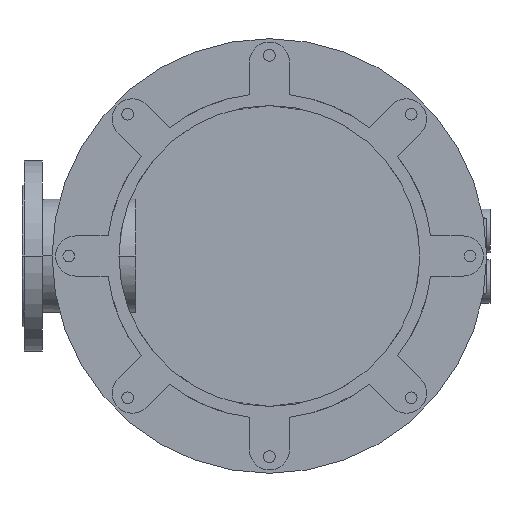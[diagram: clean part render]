
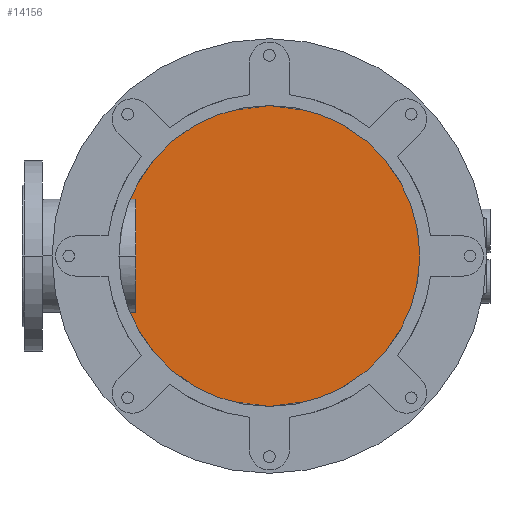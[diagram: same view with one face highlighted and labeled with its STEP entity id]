
A CAD part, front view. The second image highlights one B-rep face of the part: STEP entity #14156.
In plain terms, the highlighted planar face has unit normal (0, -1, 0).
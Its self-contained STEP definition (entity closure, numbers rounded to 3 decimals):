
#2800=CARTESIAN_POINT('',(0.,836.,0.));
#2801=DIRECTION('',(0.,-1.,0.));
#2802=DIRECTION('',(0.,0.,1.));
#2803=AXIS2_PLACEMENT_3D('',#2800,#2801,#2802);
#2969=CARTESIAN_POINT('',(0.,836.,0.));
#2970=DIRECTION('',(0.,-1.,0.));
#2971=DIRECTION('',(0.,0.,-1.));
#2972=AXIS2_PLACEMENT_3D('',#2969,#2970,#2971);
#9179=CARTESIAN_POINT('',(0.,836.,240.));
#9180=CARTESIAN_POINT('',(0.,836.,-240.));
#9181=VERTEX_POINT('',#9179);
#9182=VERTEX_POINT('',#9180);
#14146=CARTESIAN_POINT('',(0.,836.,0.));
#14147=DIRECTION('',(0.,1.,0.));
#14148=DIRECTION('',(0.,0.,-1.));
#14149=AXIS2_PLACEMENT_3D('',#14146,#14147,#14148);
#14150=PLANE('',#14149);
#14151=ORIENTED_EDGE('',*,*,#14124,.F.);
#14153=ORIENTED_EDGE('',*,*,#14152,.F.);
#14154=EDGE_LOOP('',(#14151,#14153));
#14155=FACE_OUTER_BOUND('',#14154,.F.);
#14156=ADVANCED_FACE('',(#14155),#14150,.F.);
#2804=CIRCLE('',#2803,240.);
#2973=CIRCLE('',#2972,240.);
#14124=EDGE_CURVE('',#9181,#9182,#2804,.T.);
#14152=EDGE_CURVE('',#9182,#9181,#2973,.T.);
